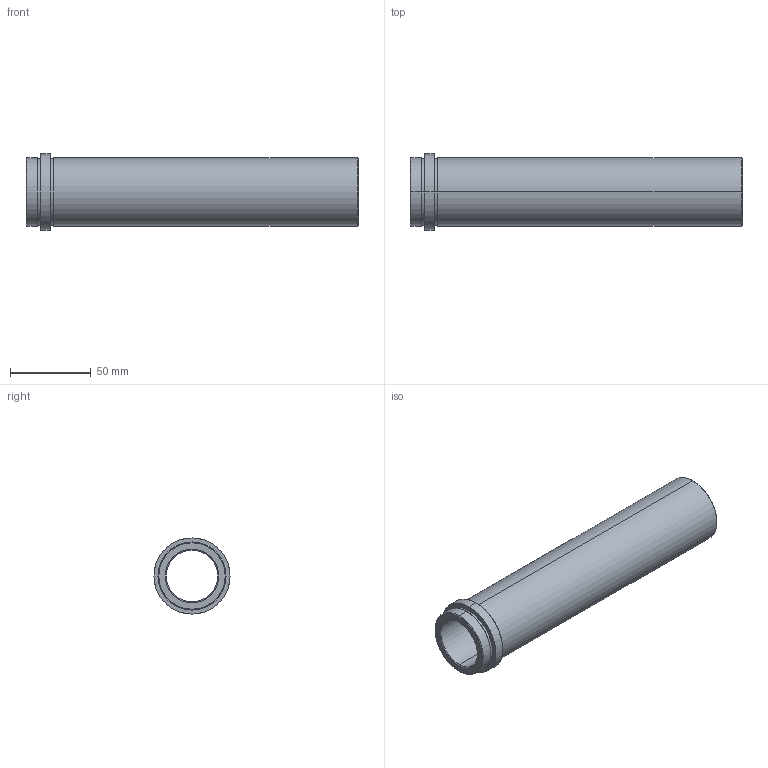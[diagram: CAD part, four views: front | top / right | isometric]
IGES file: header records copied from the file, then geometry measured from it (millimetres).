
Start section: SolidWorks IGES FILE using analytic representation for surfaces
Global section: file name: D:\zzzzz\Delta\D21\32\D21 - 32x196.IGS; native system: SolidWorks 2004 by SolidWorks Corporation; preprocessor: Version 5.3; author: Hkn; date: 080326.193303; units: millimetre
Bounding box: 205 x 47 x 47 mm (x, y, z)
Surface area: 49725.6 mm2 (no closed solid volume)
Topology: 0 solids, 0 shells, 26 faces, 848 edges, 848 vertices
Faces by surface type: revolution 20, bspline 6
